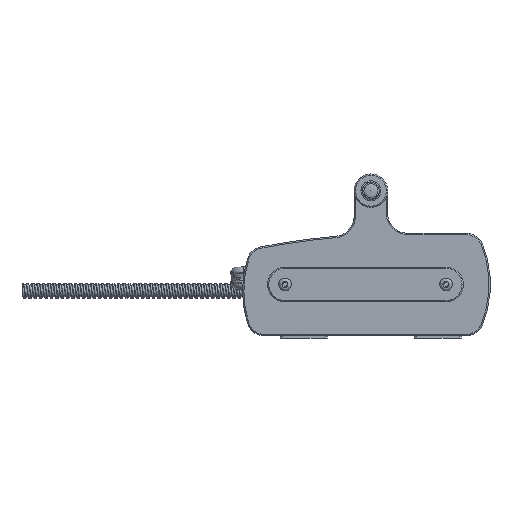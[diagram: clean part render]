
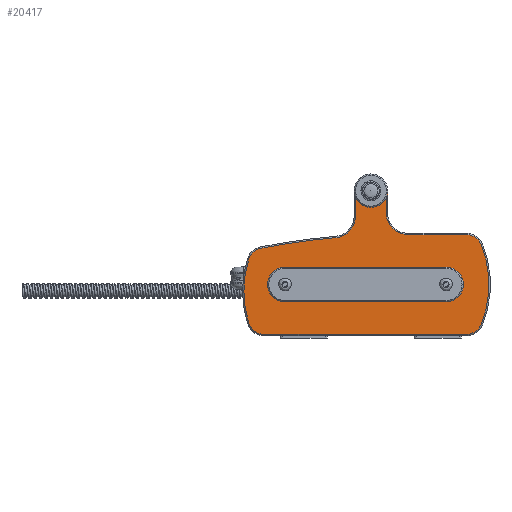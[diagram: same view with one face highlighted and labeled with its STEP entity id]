
A CAD part, left-side view. The second image highlights one B-rep face of the part: STEP entity #20417.
In plain terms, the highlighted planar face has unit normal (-1, 0, 0).
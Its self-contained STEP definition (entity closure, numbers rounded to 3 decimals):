
#20417=ADVANCED_FACE('',(#26028,#26029),#22721,.F.);
#22721=PLANE('',#83232);
#24018=CIRCLE('',#83217,12.5);
#24019=CIRCLE('',#83219,13.);
#24020=CIRCLE('',#83220,13.);
#24021=CIRCLE('',#83221,3.);
#24022=CIRCLE('',#83222,3.);
#24023=CIRCLE('',#83223,16.);
#24024=CIRCLE('',#83224,559.25);
#24025=CIRCLE('',#83225,11.75);
#24026=CIRCLE('',#83226,79.);
#24027=CIRCLE('',#83227,11.75);
#24028=CIRCLE('',#83228,11.75);
#24029=CIRCLE('',#83229,79.);
#24030=CIRCLE('',#83230,11.75);
#24031=CIRCLE('',#83231,16.);
#26028=FACE_BOUND('',#29595,.T.);
#26029=FACE_BOUND('',#29596,.T.);
#29595=EDGE_LOOP('',(#50754,#50755,#50756,#50757));
#29596=EDGE_LOOP('',(#50758,#50759,#50760,#50761,#50762,#50763,#50764,#50765,
#50766,#50767,#50768,#50769,#50770,#50771,#50772,#50773,#50774,#50775));
#50754=ORIENTED_EDGE('',*,*,#74285,.T.);
#50755=ORIENTED_EDGE('',*,*,#74286,.T.);
#50756=ORIENTED_EDGE('',*,*,#74287,.T.);
#50757=ORIENTED_EDGE('',*,*,#74288,.T.);
#50758=ORIENTED_EDGE('',*,*,#74289,.T.);
#50759=ORIENTED_EDGE('',*,*,#74290,.T.);
#50760=ORIENTED_EDGE('',*,*,#74214,.T.);
#50761=ORIENTED_EDGE('',*,*,#74284,.T.);
#50762=ORIENTED_EDGE('',*,*,#74216,.T.);
#50763=ORIENTED_EDGE('',*,*,#74291,.T.);
#50764=ORIENTED_EDGE('',*,*,#74292,.T.);
#50765=ORIENTED_EDGE('',*,*,#74293,.T.);
#50766=ORIENTED_EDGE('',*,*,#74294,.T.);
#50767=ORIENTED_EDGE('',*,*,#74295,.T.);
#50768=ORIENTED_EDGE('',*,*,#74296,.T.);
#50769=ORIENTED_EDGE('',*,*,#74297,.T.);
#50770=ORIENTED_EDGE('',*,*,#74298,.T.);
#50771=ORIENTED_EDGE('',*,*,#74299,.T.);
#50772=ORIENTED_EDGE('',*,*,#74300,.T.);
#50773=ORIENTED_EDGE('',*,*,#74301,.T.);
#50774=ORIENTED_EDGE('',*,*,#74302,.T.);
#50775=ORIENTED_EDGE('',*,*,#74303,.T.);
#63142=VERTEX_POINT('',#147223);
#63146=VERTEX_POINT('',#147231);
#63147=VERTEX_POINT('',#147238);
#63149=VERTEX_POINT('',#147241);
#63203=VERTEX_POINT('',#147378);
#63204=VERTEX_POINT('',#147379);
#63205=VERTEX_POINT('',#147381);
#63206=VERTEX_POINT('',#147383);
#63207=VERTEX_POINT('',#147386);
#63208=VERTEX_POINT('',#147387);
#63209=VERTEX_POINT('',#147390);
#63210=VERTEX_POINT('',#147392);
#63211=VERTEX_POINT('',#147394);
#63212=VERTEX_POINT('',#147396);
#63213=VERTEX_POINT('',#147398);
#63214=VERTEX_POINT('',#147400);
#63215=VERTEX_POINT('',#147402);
#63216=VERTEX_POINT('',#147404);
#63217=VERTEX_POINT('',#147406);
#63218=VERTEX_POINT('',#147408);
#63219=VERTEX_POINT('',#147410);
#63220=VERTEX_POINT('',#147412);
#74214=EDGE_CURVE('',#63142,#63146,#77155,.T.);
#74216=EDGE_CURVE('',#63149,#63147,#77156,.T.);
#74284=EDGE_CURVE('',#63146,#63149,#24018,.T.);
#74285=EDGE_CURVE('',#63203,#63204,#24019,.T.);
#74286=EDGE_CURVE('',#63204,#63205,#77189,.T.);
#74287=EDGE_CURVE('',#63205,#63206,#24020,.T.);
#74288=EDGE_CURVE('',#63206,#63203,#77190,.T.);
#74289=EDGE_CURVE('',#63207,#63208,#77191,.T.);
#74290=EDGE_CURVE('',#63208,#63142,#24021,.T.);
#74291=EDGE_CURVE('',#63147,#63209,#24022,.T.);
#74292=EDGE_CURVE('',#63209,#63210,#77192,.T.);
#74293=EDGE_CURVE('',#63210,#63211,#24023,.T.);
#74294=EDGE_CURVE('',#63211,#63212,#24024,.T.);
#74295=EDGE_CURVE('',#63212,#63213,#24025,.T.);
#74296=EDGE_CURVE('',#63213,#63214,#24026,.T.);
#74297=EDGE_CURVE('',#63214,#63215,#24027,.T.);
#74298=EDGE_CURVE('',#63215,#63216,#77193,.T.);
#74299=EDGE_CURVE('',#63216,#63217,#24028,.T.);
#74300=EDGE_CURVE('',#63217,#63218,#24029,.T.);
#74301=EDGE_CURVE('',#63218,#63219,#24030,.T.);
#74302=EDGE_CURVE('',#63219,#63220,#77194,.T.);
#74303=EDGE_CURVE('',#63220,#63207,#24031,.T.);
#77155=LINE('',#147232,#79488);
#77156=LINE('',#147240,#79489);
#77189=LINE('',#147380,#79522);
#77190=LINE('',#147384,#79523);
#77191=LINE('',#147385,#79524);
#77192=LINE('',#147391,#79525);
#77193=LINE('',#147403,#79526);
#77194=LINE('',#147411,#79527);
#79488=VECTOR('',#91833,1.);
#79489=VECTOR('',#91836,1.);
#79522=VECTOR('',#91971,1.);
#79523=VECTOR('',#91974,1.);
#79524=VECTOR('',#91975,1.);
#79525=VECTOR('',#91980,1.);
#79526=VECTOR('',#91991,1.);
#79527=VECTOR('',#91998,1.);
#83217=AXIS2_PLACEMENT_3D('',#147375,#91965,#91966);
#83219=AXIS2_PLACEMENT_3D('',#147377,#91969,#91970);
#83220=AXIS2_PLACEMENT_3D('',#147382,#91972,#91973);
#83221=AXIS2_PLACEMENT_3D('',#147388,#91976,#91977);
#83222=AXIS2_PLACEMENT_3D('',#147389,#91978,#91979);
#83223=AXIS2_PLACEMENT_3D('',#147393,#91981,#91982);
#83224=AXIS2_PLACEMENT_3D('',#147395,#91983,#91984);
#83225=AXIS2_PLACEMENT_3D('',#147397,#91985,#91986);
#83226=AXIS2_PLACEMENT_3D('',#147399,#91987,#91988);
#83227=AXIS2_PLACEMENT_3D('',#147401,#91989,#91990);
#83228=AXIS2_PLACEMENT_3D('',#147405,#91992,#91993);
#83229=AXIS2_PLACEMENT_3D('',#147407,#91994,#91995);
#83230=AXIS2_PLACEMENT_3D('',#147409,#91996,#91997);
#83231=AXIS2_PLACEMENT_3D('',#147413,#91999,#92000);
#83232=AXIS2_PLACEMENT_3D('',#147414,#92001,#92002);
#91833=DIRECTION('',(0.,0.,1.));
#91836=DIRECTION('',(0.,0.,-1.));
#91965=DIRECTION('',(1.,0.,0.));
#91966=DIRECTION('',(0.,1.,0.));
#91969=DIRECTION('',(1.,0.,0.));
#91970=DIRECTION('',(0.,1.,0.));
#91971=DIRECTION('',(0.,-1.,0.));
#91972=DIRECTION('',(1.,0.,0.));
#91973=DIRECTION('',(0.,1.,0.));
#91974=DIRECTION('',(0.,1.,0.));
#91975=DIRECTION('',(0.,0.,1.));
#91976=DIRECTION('',(1.,0.,0.));
#91977=DIRECTION('',(0.,0.999,-0.048));
#91978=DIRECTION('',(1.,0.,0.));
#91979=DIRECTION('',(0.,-1.,0.));
#91980=DIRECTION('',(0.,0.,-1.));
#91981=DIRECTION('',(1.,0.,0.));
#91982=DIRECTION('',(0.,0.999,-0.048));
#91983=DIRECTION('',(-1.,0.,0.));
#91984=DIRECTION('',(0.,0.999,-0.048));
#91985=DIRECTION('',(-1.,0.,0.));
#91986=DIRECTION('',(0.,0.999,-0.048));
#91987=DIRECTION('',(-1.,0.,0.));
#91988=DIRECTION('',(0.,0.999,-0.048));
#91989=DIRECTION('',(-1.,0.,0.));
#91990=DIRECTION('',(0.,0.999,-0.048));
#91991=DIRECTION('',(0.,-1.,0.));
#91992=DIRECTION('',(-1.,0.,0.));
#91993=DIRECTION('',(0.,0.999,-0.048));
#91994=DIRECTION('',(-1.,0.,0.));
#91995=DIRECTION('',(0.,0.999,-0.048));
#91996=DIRECTION('',(-1.,0.,0.));
#91997=DIRECTION('',(0.,0.999,-0.048));
#91998=DIRECTION('',(0.,1.,0.));
#91999=DIRECTION('',(1.,0.,0.));
#92000=DIRECTION('',(0.,0.999,-0.048));
#92001=DIRECTION('',(1.,0.,0.));
#92002=DIRECTION('',(0.,1.,0.));
#147223=CARTESIAN_POINT('',(-90.047,88.6,82.145));
#147231=CARTESIAN_POINT('',(-90.047,88.6,86.906));
#147232=CARTESIAN_POINT('',(-90.047,88.6,70.206));
#147238=CARTESIAN_POINT('',(-90.047,113.6,82.163));
#147240=CARTESIAN_POINT('',(-90.047,113.6,86.906));
#147241=CARTESIAN_POINT('',(-90.047,113.6,86.906));
#147375=CARTESIAN_POINT('',(-90.047,101.1,86.906));
#147377=CARTESIAN_POINT('',(-90.047,165.15,17.056));
#147378=CARTESIAN_POINT('',(-90.047,165.15,4.056));
#147379=CARTESIAN_POINT('',(-90.047,165.15,30.056));
#147380=CARTESIAN_POINT('',(-90.047,128.6,30.056));
#147381=CARTESIAN_POINT('',(-90.047,45.15,30.056));
#147382=CARTESIAN_POINT('',(-90.047,45.15,17.056));
#147383=CARTESIAN_POINT('',(-90.047,45.15,4.056));
#147384=CARTESIAN_POINT('',(-90.047,128.6,4.056));
#147385=CARTESIAN_POINT('',(-90.047,89.6,70.206));
#147386=CARTESIAN_POINT('',(-90.047,89.6,70.206));
#147387=CARTESIAN_POINT('',(-90.047,89.6,79.909));
#147388=CARTESIAN_POINT('',(-90.047,86.6,79.909));
#147389=CARTESIAN_POINT('',(-90.047,115.6,79.927));
#147390=CARTESIAN_POINT('',(-90.047,112.6,79.927));
#147391=CARTESIAN_POINT('',(-90.047,112.6,79.927));
#147392=CARTESIAN_POINT('',(-90.047,112.6,67.9));
#147393=CARTESIAN_POINT('',(-90.047,128.6,67.9));
#147394=CARTESIAN_POINT('',(-90.047,127.169,51.964));
#147395=CARTESIAN_POINT('',(-90.047,77.15,-505.044));
#147396=CARTESIAN_POINT('',(-90.047,183.076,44.083));
#147397=CARTESIAN_POINT('',(-90.047,180.85,32.545));
#147398=CARTESIAN_POINT('',(-90.047,192.044,36.118));
#147399=CARTESIAN_POINT('',(-90.047,116.783,12.101));
#147400=CARTESIAN_POINT('',(-90.047,192.044,-11.916));
#147401=CARTESIAN_POINT('',(-90.047,180.85,-8.344));
#147402=CARTESIAN_POINT('',(-90.047,180.85,-20.094));
#147403=CARTESIAN_POINT('',(-90.047,180.85,-20.094));
#147404=CARTESIAN_POINT('',(-90.047,29.85,-20.094));
#147405=CARTESIAN_POINT('',(-90.047,29.85,-8.344));
#147406=CARTESIAN_POINT('',(-90.047,18.97,-12.782));
#147407=CARTESIAN_POINT('',(-90.047,92.119,17.056));
#147408=CARTESIAN_POINT('',(-90.047,18.97,46.894));
#147409=CARTESIAN_POINT('',(-90.047,29.85,42.456));
#147410=CARTESIAN_POINT('',(-90.047,29.85,54.206));
#147411=CARTESIAN_POINT('',(-90.047,29.85,54.206));
#147412=CARTESIAN_POINT('',(-90.047,73.6,54.206));
#147413=CARTESIAN_POINT('',(-90.047,73.6,70.206));
#147414=CARTESIAN_POINT('',(-90.047,128.6,67.9));
